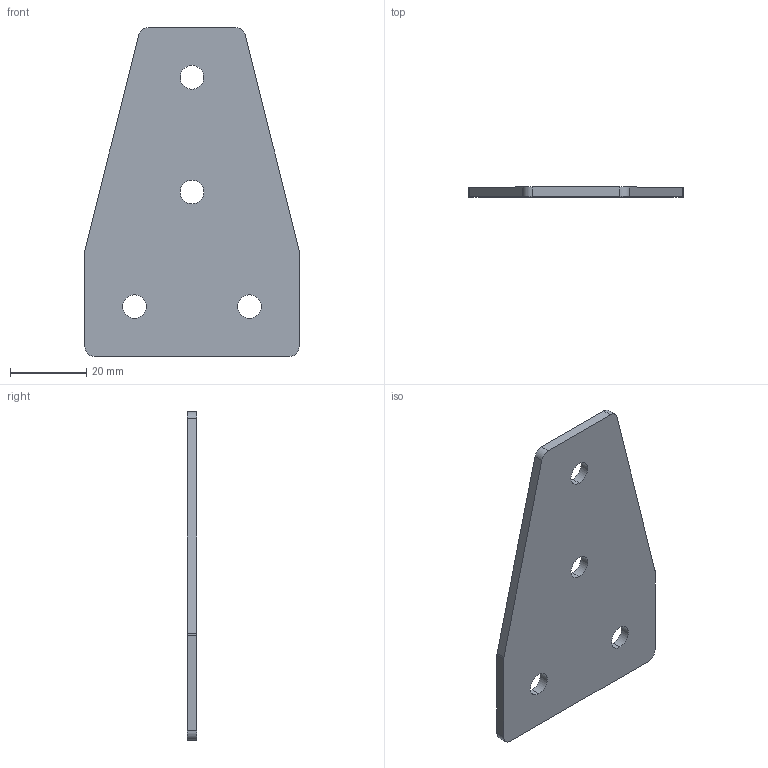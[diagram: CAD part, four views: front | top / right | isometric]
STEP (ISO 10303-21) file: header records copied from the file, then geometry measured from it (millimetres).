
FILE_DESCRIPTION (( 'STEP AP203' ), '1' );
FILE_NAME ('ﾒ-4-ﾓ-30.STEP', '2016-07-22T09:34:32', ( '' ), ( '' ), 'SwSTEP 2.0', 'SolidWorks 2014', '' );
FILE_SCHEMA (( 'CONFIG_CONTROL_DESIGN' ));
Length unit declared in the file: millimetre
Products named in the file (1): ﾒ-4-ﾓ-30
Bounding box: 56 x 2.5 x 86 mm (x, y, z)
Surface area: 8518.4 mm2 (no closed solid volume)
Topology: 0 solids, 1 shells, 22 faces, 60 edges, 40 vertices
Faces by surface type: cylinder 14, plane 8
Entity records: 805 total; most frequent: DIRECTION 134, CARTESIAN_POINT 123, ORIENTED_EDGE 120, EDGE_CURVE 60, AXIS2_PLACEMENT_3D 51, VERTEX_POINT 40, LINE 32, VECTOR 32
